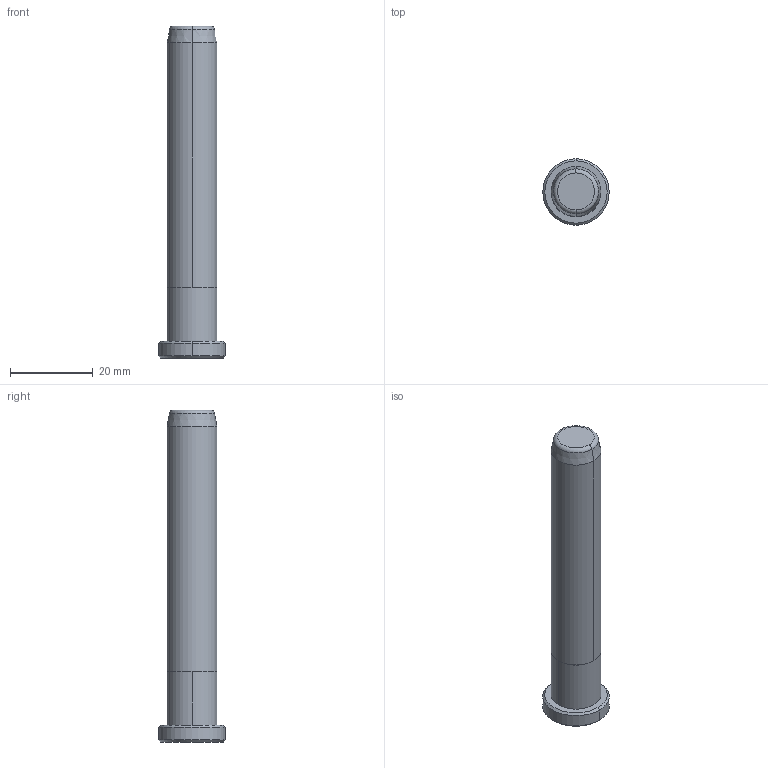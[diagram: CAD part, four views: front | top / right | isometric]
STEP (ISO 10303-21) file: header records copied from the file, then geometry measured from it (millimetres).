
FILE_DESCRIPTION((''),'2;1');
FILE_NAME('B82812080','2018-01-22T',('MANU'),(''),'PRO/ENGINEER BY PARAMETRIC TECHNOLOGY CORPORATION, 2012130','PRO/ENGINEER BY PARAMETRIC TECHNOLOGY CORPORATION, 2012130','');
FILE_SCHEMA(('CONFIG_CONTROL_DESIGN'));
Length unit declared in the file: millimetre
Products named in the file (1): B82812080
Bounding box: 16 x 16 x 80 mm (x, y, z)
Volume: 9336.6 mm3; surface area: 3397.6 mm2
Topology: 1 solids, 1 shells, 18 faces, 34 edges, 20 vertices
Faces by surface type: cone 6, cylinder 6, plane 4, torus 2
Entity records: 494 total; most frequent: DIRECTION 92, CARTESIAN_POINT 72, ORIENTED_EDGE 68, AXIS2_PLACEMENT_3D 40, EDGE_CURVE 34, CIRCLE 22, VERTEX_POINT 20, EDGE_LOOP 20
